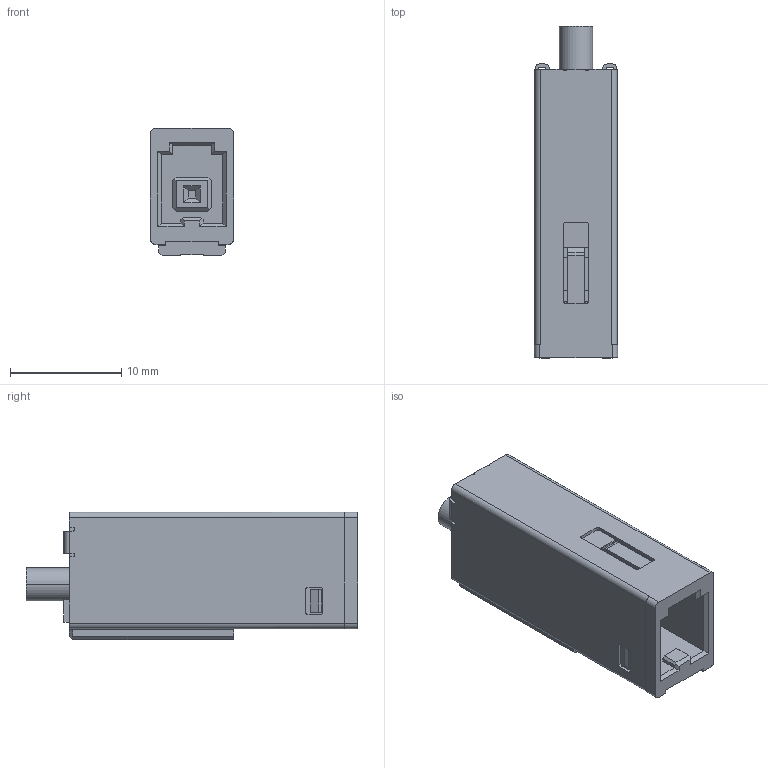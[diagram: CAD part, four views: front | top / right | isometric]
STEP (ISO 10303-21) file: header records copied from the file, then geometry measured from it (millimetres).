
FILE_DESCRIPTION((''),'2;1');
FILE_NAME('CSS1001-2202F_SW131028','2015-01-19T',('tomoki-t'),(''),'PRO/ENGINEER BY PARAMETRIC TECHNOLOGY CORPORATION, 2013230','PRO/ENGINEER BY PARAMETRIC TECHNOLOGY CORPORATION, 2013230','');
FILE_SCHEMA(('AUTOMOTIVE_DESIGN { 1 0 10303 214 1 1 1 1 }'));
Length unit declared in the file: millimetre
Products named in the file (1): CSS1001-2202F_SW131028
Bounding box: 7.5 x 29.9 x 11.5 mm (x, y, z)
Volume: 1743.8 mm3; surface area: 2960.3 mm2
Topology: 1 solids, 3 shells, 379 faces, 1112 edges, 720 vertices
Faces by surface type: plane 298, cylinder 67, cone 14
Entity records: 16565 total; most frequent: CARTESIAN_POINT 2375, ORIENTED_EDGE 2224, DIRECTION 1976, EDGE_CURVE 1112, VECTOR 934, LINE 934, VERTEX_POINT 720, FILL_AREA_STYLE_COLOUR 588
